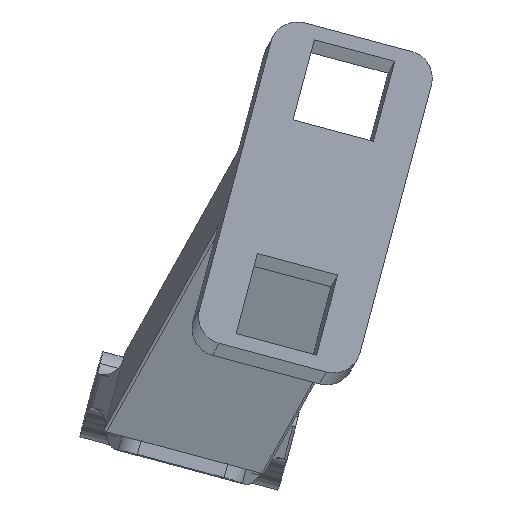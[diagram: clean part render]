
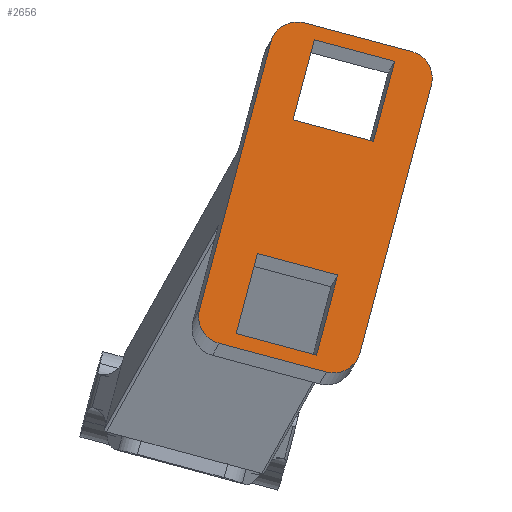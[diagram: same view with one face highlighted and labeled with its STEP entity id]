
A CAD part, top view. The second image highlights one B-rep face of the part: STEP entity #2656.
In plain terms, the highlighted planar face has unit normal (0.035, 0.06, 0.998).
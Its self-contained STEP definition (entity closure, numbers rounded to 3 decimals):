
#29 = DIRECTION ( 'NONE',  ( 0.706, 0.705, -0.067 ) ) ;
#43 = FACE_BOUND ( 'NONE', #1410, .T. ) ;
#68 = CARTESIAN_POINT ( 'NONE',  ( 32.703, 12.812, -169.924 ) ) ;
#84 = CARTESIAN_POINT ( 'NONE',  ( 42.004, 67.133, -173.5 ) ) ;
#102 = DIRECTION ( 'NONE',  ( -0.966, 0.259, 0.018 ) ) ;
#130 = DIRECTION ( 'NONE',  ( -0.966, 0.259, 0.018 ) ) ;
#145 = CARTESIAN_POINT ( 'NONE',  ( 50.247, 10.697, -170.403 ) ) ;
#165 = DIRECTION ( 'NONE',  ( 0.966, -0.259, -0.018 ) ) ;
#197 = DIRECTION ( 'NONE',  ( 0.257, 0.964, -0.067 ) ) ;
#220 = EDGE_CURVE ( 'NONE', #2296, #457, #2864, .T. ) ;
#262 = FACE_OUTER_BOUND ( 'NONE', #2316, .T. ) ;
#266 = CARTESIAN_POINT ( 'NONE',  ( 35.76, 14.576, -170.135 ) ) ;
#276 = VERTEX_POINT ( 'NONE', #991 ) ;
#298 = CARTESIAN_POINT ( 'NONE',  ( 48.118, 70.661, -173.922 ) ) ;
#349 = DIRECTION ( 'NONE',  ( 0.034, 0.06, 0.998 ) ) ;
#361 = CARTESIAN_POINT ( 'NONE',  ( 60.524, 49.263, -173.069 ) ) ;
#367 = ORIENTED_EDGE ( 'NONE', *, *, #1240, .F. ) ;
#374 = CARTESIAN_POINT ( 'NONE',  ( 33.988, 17.633, -170.257 ) ) ;
#457 = VERTEX_POINT ( 'NONE', #1206 ) ;
#502 = DIRECTION ( 'NONE',  ( 0.257, 0.964, -0.067 ) ) ;
#531 = DIRECTION ( 'NONE',  ( -0.257, -0.964, 0.067 ) ) ;
#534 = CARTESIAN_POINT ( 'NONE',  ( 58.133, 11.168, -170.704 ) ) ;
#561 = CARTESIAN_POINT ( 'NONE',  ( 70.979, 59.375, -174.036 ) ) ;
#571 = CARTESIAN_POINT ( 'NONE',  ( 66.15, 60.668, -173.946 ) ) ;
#636 = EDGE_CURVE ( 'NONE', #2300, #2850, #2325, .T. ) ;
#637 = VECTOR ( 'NONE', #2790, 1000. ) ;
#668 = AXIS2_PLACEMENT_3D ( 'NONE', #571, #1284, #29 ) ;
#672 = EDGE_CURVE ( 'NONE', #457, #2623, #2075, .T. ) ;
#714 = CARTESIAN_POINT ( 'NONE',  ( 42.004, 67.133, -173.5 ) ) ;
#744 = AXIS2_PLACEMENT_3D ( 'NONE', #2492, #349, #130 ) ;
#754 = EDGE_CURVE ( 'NONE', #2238, #2806, #1638, .T. ) ;
#800 = CARTESIAN_POINT ( 'NONE',  ( 46.036, 53.142, -172.801 ) ) ;
#811 = DIRECTION ( 'NONE',  ( -0.966, 0.259, 0.018 ) ) ;
#813 = ORIENTED_EDGE ( 'NONE', *, *, #2959, .F. ) ;
#823 = LINE ( 'NONE', #1978, #2003 ) ;
#854 = CARTESIAN_POINT ( 'NONE',  ( 32.703, 12.812, -169.924 ) ) ;
#856 = EDGE_LOOP ( 'NONE', ( #2066, #2929, #367, #2698 ) ) ;
#914 = ORIENTED_EDGE ( 'NONE', *, *, #636, .T. ) ;
#953 = EDGE_CURVE ( 'NONE', #2293, #2238, #2931, .T. ) ;
#980 = VERTEX_POINT ( 'NONE', #2211 ) ;
#982 = VECTOR ( 'NONE', #197, 1000. ) ;
#991 = CARTESIAN_POINT ( 'NONE',  ( 39.614, 29.038, -171.135 ) ) ;
#1089 = ORIENTED_EDGE ( 'NONE', *, *, #1329, .T. ) ;
#1108 = AXIS2_PLACEMENT_3D ( 'NONE', #2385, #2877, #1672 ) ;
#1118 = LINE ( 'NONE', #2364, #637 ) ;
#1143 = EDGE_CURVE ( 'NONE', #1188, #2309, #1118, .T. ) ;
#1154 = VECTOR ( 'NONE', #3050, 1000. ) ;
#1170 = VECTOR ( 'NONE', #1542, 1000. ) ;
#1188 = VERTEX_POINT ( 'NONE', #266 ) ;
#1206 = CARTESIAN_POINT ( 'NONE',  ( 64.377, 63.725, -174.068 ) ) ;
#1240 = EDGE_CURVE ( 'NONE', #2623, #1303, #2863, .T. ) ;
#1244 = VERTEX_POINT ( 'NONE', #298 ) ;
#1284 = DIRECTION ( 'NONE',  ( 0.034, 0.06, 0.998 ) ) ;
#1299 = VERTEX_POINT ( 'NONE', #68 ) ;
#1303 = VERTEX_POINT ( 'NONE', #800 ) ;
#1329 = EDGE_CURVE ( 'NONE', #1752, #1244, #823, .T. ) ;
#1406 = LINE ( 'NONE', #2771, #1979 ) ;
#1410 = EDGE_LOOP ( 'NONE', ( #813, #2941, #1951, #1990 ) ) ;
#1473 = CIRCLE ( 'NONE', #1524, 5. ) ;
#1524 = AXIS2_PLACEMENT_3D ( 'NONE', #374, #2963, #2992 ) ;
#1542 = DIRECTION ( 'NONE',  ( 0.966, -0.259, -0.018 ) ) ;
#1576 = CIRCLE ( 'NONE', #2433, 5. ) ;
#1581 = VECTOR ( 'NONE', #2803, 1000. ) ;
#1616 = CARTESIAN_POINT ( 'NONE',  ( 58.133, 11.168, -170.704 ) ) ;
#1638 = LINE ( 'NONE', #1616, #982 ) ;
#1672 = DIRECTION ( 'NONE',  ( -0.966, 0.259, 0.018 ) ) ;
#1674 = VECTOR ( 'NONE', #502, 1000. ) ;
#1752 = VERTEX_POINT ( 'NONE', #2129 ) ;
#1838 = CARTESIAN_POINT ( 'NONE',  ( 64.377, 63.725, -174.068 ) ) ;
#1905 = EDGE_CURVE ( 'NONE', #980, #276, #2010, .T. ) ;
#1944 = DIRECTION ( 'NONE',  ( -0.257, -0.964, 0.067 ) ) ;
#1951 = ORIENTED_EDGE ( 'NONE', *, *, #3081, .F. ) ;
#1968 = CARTESIAN_POINT ( 'NONE',  ( 50.247, 10.697, -170.403 ) ) ;
#1978 = CARTESIAN_POINT ( 'NONE',  ( 67.434, 65.489, -174.28 ) ) ;
#1979 = VECTOR ( 'NONE', #165, 1000. ) ;
#1980 = ORIENTED_EDGE ( 'NONE', *, *, #2302, .T. ) ;
#1989 = FACE_BOUND ( 'NONE', #856, .T. ) ;
#1990 = ORIENTED_EDGE ( 'NONE', *, *, #1905, .F. ) ;
#1999 = CARTESIAN_POINT ( 'NONE',  ( 52.02, 7.641, -170.281 ) ) ;
#2003 = VECTOR ( 'NONE', #811, 1000. ) ;
#2010 = LINE ( 'NONE', #2689, #2875 ) ;
#2054 = LINE ( 'NONE', #854, #1170 ) ;
#2066 = ORIENTED_EDGE ( 'NONE', *, *, #220, .F. ) ;
#2075 = LINE ( 'NONE', #1838, #1581 ) ;
#2100 = LINE ( 'NONE', #1968, #1154 ) ;
#2129 = CARTESIAN_POINT ( 'NONE',  ( 67.434, 65.489, -174.28 ) ) ;
#2141 = CARTESIAN_POINT ( 'NONE',  ( 49.89, 67.604, -173.8 ) ) ;
#2164 = ORIENTED_EDGE ( 'NONE', *, *, #754, .T. ) ;
#2177 = CARTESIAN_POINT ( 'NONE',  ( 49.89, 67.604, -173.8 ) ) ;
#2211 = CARTESIAN_POINT ( 'NONE',  ( 54.101, 25.159, -171.403 ) ) ;
#2238 = VERTEX_POINT ( 'NONE', #534 ) ;
#2243 = DIRECTION ( 'NONE',  ( 0.034, 0.06, 0.998 ) ) ;
#2293 = VERTEX_POINT ( 'NONE', #1999 ) ;
#2296 = VERTEX_POINT ( 'NONE', #361 ) ;
#2300 = VERTEX_POINT ( 'NONE', #84 ) ;
#2302 = EDGE_CURVE ( 'NONE', #2850, #1299, #1473, .T. ) ;
#2309 = VERTEX_POINT ( 'NONE', #145 ) ;
#2316 = EDGE_LOOP ( 'NONE', ( #2993, #1089, #2866, #914, #1980, #2702, #2672, #2164 ) ) ;
#2325 = LINE ( 'NONE', #714, #3084 ) ;
#2336 = EDGE_CURVE ( 'NONE', #1299, #2293, #2054, .T. ) ;
#2354 = EDGE_CURVE ( 'NONE', #1244, #2300, #1576, .T. ) ;
#2364 = CARTESIAN_POINT ( 'NONE',  ( 35.76, 14.576, -170.135 ) ) ;
#2385 = CARTESIAN_POINT ( 'NONE',  ( 66.15, 60.668, -173.946 ) ) ;
#2419 = LINE ( 'NONE', #2693, #2518 ) ;
#2428 = PLANE ( 'NONE',  #668 ) ;
#2433 = AXIS2_PLACEMENT_3D ( 'NONE', #2476, #2243, #102 ) ;
#2440 = DIRECTION ( 'NONE',  ( -0.966, 0.259, 0.018 ) ) ;
#2476 = CARTESIAN_POINT ( 'NONE',  ( 46.833, 65.84, -173.589 ) ) ;
#2492 = CARTESIAN_POINT ( 'NONE',  ( 53.304, 12.461, -170.614 ) ) ;
#2494 = VECTOR ( 'NONE', #531, 1000. ) ;
#2518 = VECTOR ( 'NONE', #1944, 1000. ) ;
#2521 = CIRCLE ( 'NONE', #1108, 5. ) ;
#2567 = DIRECTION ( 'NONE',  ( -0.257, -0.964, 0.067 ) ) ;
#2619 = EDGE_CURVE ( 'NONE', #2806, #1752, #2521, .T. ) ;
#2623 = VERTEX_POINT ( 'NONE', #2177 ) ;
#2656 = ADVANCED_FACE ( 'NONE', ( #1989, #43, #262 ), #2428, .T. ) ;
#2672 = ORIENTED_EDGE ( 'NONE', *, *, #953, .T. ) ;
#2689 = CARTESIAN_POINT ( 'NONE',  ( 54.101, 25.159, -171.403 ) ) ;
#2693 = CARTESIAN_POINT ( 'NONE',  ( 39.614, 29.038, -171.135 ) ) ;
#2698 = ORIENTED_EDGE ( 'NONE', *, *, #672, .F. ) ;
#2702 = ORIENTED_EDGE ( 'NONE', *, *, #2336, .T. ) ;
#2759 = CARTESIAN_POINT ( 'NONE',  ( 29.159, 18.926, -170.168 ) ) ;
#2771 = CARTESIAN_POINT ( 'NONE',  ( 46.036, 53.142, -172.801 ) ) ;
#2790 = DIRECTION ( 'NONE',  ( 0.966, -0.259, -0.018 ) ) ;
#2803 = DIRECTION ( 'NONE',  ( -0.966, 0.259, 0.018 ) ) ;
#2806 = VERTEX_POINT ( 'NONE', #561 ) ;
#2850 = VERTEX_POINT ( 'NONE', #2759 ) ;
#2863 = LINE ( 'NONE', #2141, #2494 ) ;
#2864 = LINE ( 'NONE', #2887, #1674 ) ;
#2866 = ORIENTED_EDGE ( 'NONE', *, *, #2354, .T. ) ;
#2875 = VECTOR ( 'NONE', #2440, 1000. ) ;
#2877 = DIRECTION ( 'NONE',  ( 0.034, 0.06, 0.998 ) ) ;
#2887 = CARTESIAN_POINT ( 'NONE',  ( 60.524, 49.263, -173.069 ) ) ;
#2929 = ORIENTED_EDGE ( 'NONE', *, *, #3013, .F. ) ;
#2931 = CIRCLE ( 'NONE', #744, 5. ) ;
#2941 = ORIENTED_EDGE ( 'NONE', *, *, #1143, .F. ) ;
#2959 = EDGE_CURVE ( 'NONE', #2309, #980, #2100, .T. ) ;
#2963 = DIRECTION ( 'NONE',  ( 0.034, 0.06, 0.998 ) ) ;
#2992 = DIRECTION ( 'NONE',  ( -0.966, 0.259, 0.018 ) ) ;
#2993 = ORIENTED_EDGE ( 'NONE', *, *, #2619, .T. ) ;
#3013 = EDGE_CURVE ( 'NONE', #1303, #2296, #1406, .T. ) ;
#3050 = DIRECTION ( 'NONE',  ( 0.257, 0.964, -0.067 ) ) ;
#3081 = EDGE_CURVE ( 'NONE', #276, #1188, #2419, .T. ) ;
#3084 = VECTOR ( 'NONE', #2567, 1000. ) ;
